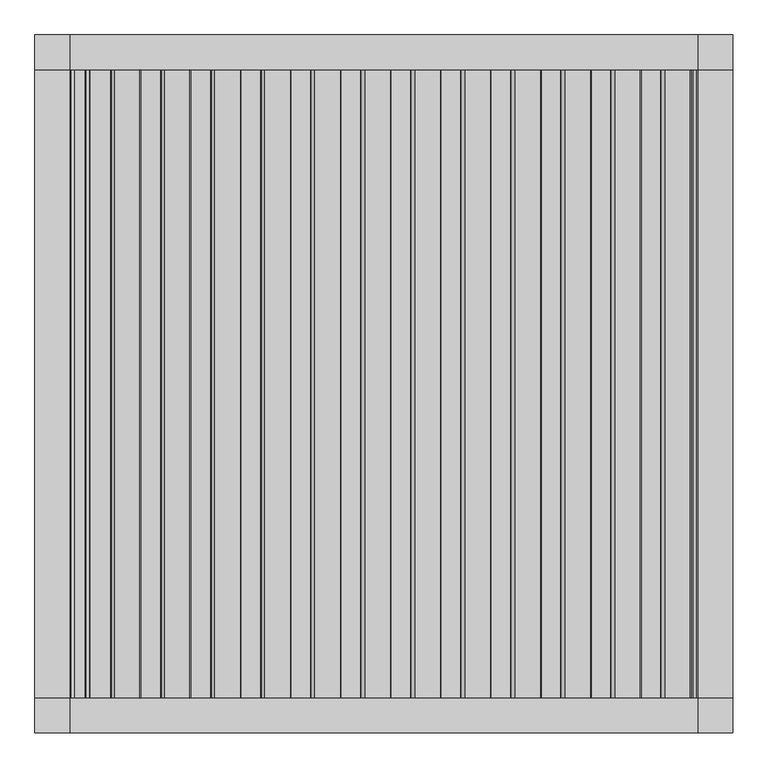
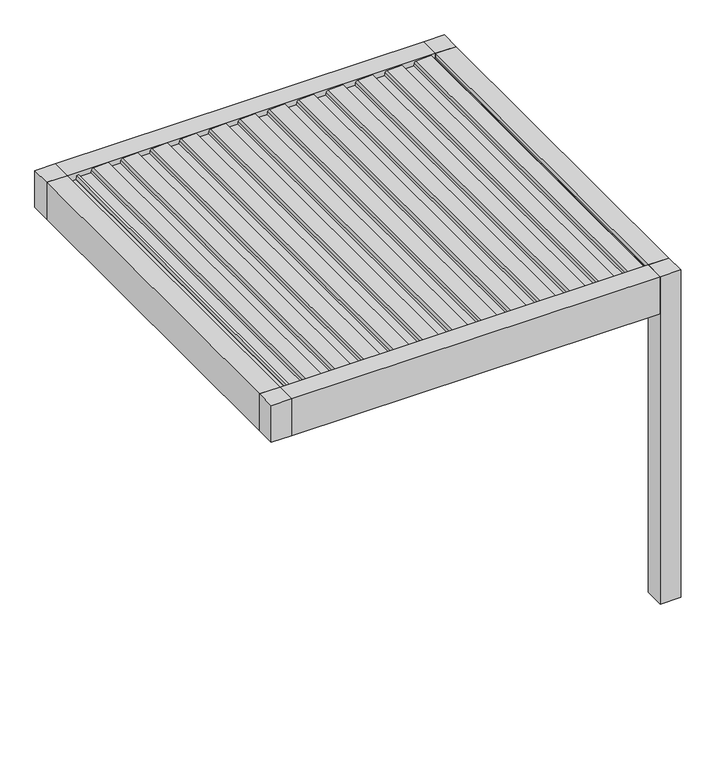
"""IFC4 building model written with IfcOpenShell, lengths in millimetres: proxy geometry, Renson_Amani_Patio_Cover : Renson_Amani_Patio_Cover."""

from ifc_helpers import new_model, si_unit, point, frame, frame_2d, origin, origin_with_axes, place, context, project, spatial, polyline, circle_curve, trimmed, segment, composite_curve, outline, extrude, source, transform, mapped, element, save


def generic_models_f0f07288(model_context):
    return source(origin(), model_context, "Body", "SweptSolid", [
        extrude(outline(composite_curve([segment(polyline([(2483.35, 1073.7289238), (2511.01198, 1076.1490335), (2512.3970364, 1104.984284), (2531.8911096, 1101.5469529), (2526.6075693, 991.549838)]), True, "CONTINUOUS"), segment(trimmed(circle_curve(frame_2d((2511.6248435, 992.26951)), 15.0), [point((2526.6075693, 991.549838))], [point((2514.2295662, 977.4973937))], False, "CARTESIAN"), True, "CONTINUOUS"), segment(polyline([(2514.2295662, 977.4973937), (2495.0, 974.1067023), (2495.0, 886.3709263), (2512.0788237, 883.3594689), (2511.3450182, 868.0824984), (2483.35, 865.6332517), (2483.35, 1073.7289238)]), True, "CONTINUOUS")], self_intersect=False)), frame((0.0, -1350.0, 0.0), z_axis=(0.0, 1.0, 0.0), x_axis=(0.0, 0.0, 1.0)), (0.0, 0.0, 1.0), 2700.0),
        extrude(outline(composite_curve([segment(polyline([(2483.35, 858.7132078), (2511.01198, 861.1333174), (2512.3970364, 889.9685679), (2531.8911096, 886.5312368), (2526.6075693, 776.534122)]), True, "CONTINUOUS"), segment(trimmed(circle_curve(frame_2d((2511.6248435, 777.2537939)), 15.0), [point((2526.6075693, 776.534122))], [point((2514.2295662, 762.4816776))], False, "CARTESIAN"), True, "CONTINUOUS"), segment(polyline([(2514.2295662, 762.4816776), (2495.0, 759.0909863), (2495.0, 671.3552102), (2512.0788237, 668.3437528), (2511.3450182, 653.0667824), (2483.35, 650.6175356), (2483.35, 858.7132078)]), True, "CONTINUOUS")], self_intersect=False)), frame((0.0, -1350.0, 0.0), z_axis=(0.0, 1.0, 0.0), x_axis=(0.0, 0.0, 1.0)), (0.0, 0.0, 1.0), 2700.0),
        extrude(outline(composite_curve([segment(polyline([(2483.35, 643.6974917), (2511.01198, 646.1176014), (2512.3970364, 674.9528519), (2531.8911096, 671.5155208), (2526.6075693, 561.5184059)]), True, "CONTINUOUS"), segment(trimmed(circle_curve(frame_2d((2511.6248435, 562.2380779)), 15.0), [point((2526.6075693, 561.5184059))], [point((2514.2295662, 547.4659616))], False, "CARTESIAN"), True, "CONTINUOUS"), segment(polyline([(2514.2295662, 547.4659616), (2495.0, 544.0752702), (2495.0, 456.3394942), (2512.0788237, 453.3280368), (2511.3450182, 438.0510663), (2483.35, 435.6018196), (2483.35, 643.6974917)]), True, "CONTINUOUS")], self_intersect=False)), frame((0.0, -1350.0, 0.0), z_axis=(0.0, 1.0, 0.0), x_axis=(0.0, 0.0, 1.0)), (0.0, 0.0, 1.0), 2700.0),
        extrude(outline(composite_curve([segment(polyline([(2483.35, 428.6817757), (2511.01198, 431.1018854), (2512.3970364, 459.9371358), (2531.8911096, 456.4998047), (2526.6075693, 346.5026899)]), True, "CONTINUOUS"), segment(trimmed(circle_curve(frame_2d((2511.6248435, 347.2223618)), 15.0), [point((2526.6075693, 346.5026899))], [point((2514.2295662, 332.4502455))], False, "CARTESIAN"), True, "CONTINUOUS"), segment(polyline([(2514.2295662, 332.4502455), (2495.0, 329.0595542), (2495.0, 241.3237782), (2512.0788237, 238.3123207), (2511.3450182, 223.0353503), (2483.35, 220.5861035), (2483.35, 428.6817757)]), True, "CONTINUOUS")], self_intersect=False)), frame((0.0, -1350.0, 0.0), z_axis=(0.0, 1.0, 0.0), x_axis=(0.0, 0.0, 1.0)), (0.0, 0.0, 1.0), 2700.0),
        extrude(outline(composite_curve([segment(polyline([(2483.35, 213.6660597), (2511.01198, 216.0861693), (2512.3970364, 244.9214198), (2531.8911096, 241.4840887), (2526.6075693, 131.4869738)]), True, "CONTINUOUS"), segment(trimmed(circle_curve(frame_2d((2511.6248435, 132.2066458)), 15.0), [point((2526.6075693, 131.4869738))], [point((2514.2295662, 117.4345295))], False, "CARTESIAN"), True, "CONTINUOUS"), segment(polyline([(2514.2295662, 117.4345295), (2495.0, 114.0438381), (2495.0, 26.3080621), (2512.0788237, 23.2966047), (2511.3450182, 8.0196342), (2483.35, 5.5703875), (2483.35, 213.6660597)]), True, "CONTINUOUS")], self_intersect=False)), frame((0.0, -1350.0, 0.0), z_axis=(0.0, 1.0, 0.0), x_axis=(0.0, 0.0, 1.0)), (0.0, 0.0, 1.0), 2700.0),
        extrude(outline(composite_curve([segment(polyline([(2483.35, -1.3496564), (2511.01198, 1.0704533), (2512.3970364, 29.9057037), (2531.8911096, 26.4683726), (2526.6075693, -83.5287422)]), True, "CONTINUOUS"), segment(trimmed(circle_curve(frame_2d((2511.6248435, -82.8090703)), 15.0), [point((2526.6075693, -83.5287422))], [point((2514.2295662, -97.5811866))], False, "CARTESIAN"), True, "CONTINUOUS"), segment(polyline([(2514.2295662, -97.5811866), (2495.0, -100.9718779), (2495.0, -188.7076539), (2512.0788237, -191.7191114), (2511.3450182, -206.9960818), (2483.35, -209.4453286), (2483.35, -1.3496564)]), True, "CONTINUOUS")], self_intersect=False)), frame((0.0, -1350.0, 0.0), z_axis=(0.0, 1.0, 0.0), x_axis=(0.0, 0.0, 1.0)), (0.0, 0.0, 1.0), 2700.0),
        extrude(outline(composite_curve([segment(polyline([(2483.35, -216.3653724), (2511.01198, -213.9452628), (2512.3970364, -185.1100123), (2531.8911096, -188.5473434), (2526.6075693, -298.5444582)]), True, "CONTINUOUS"), segment(trimmed(circle_curve(frame_2d((2511.6248435, -297.8247863)), 15.0), [point((2526.6075693, -298.5444582))], [point((2514.2295662, -312.5969026))], False, "CARTESIAN"), True, "CONTINUOUS"), segment(polyline([(2514.2295662, -312.5969026), (2495.0, -315.987594), (2495.0, -403.72337), (2512.0788237, -406.7348274), (2511.3450182, -422.0117979), (2483.35, -424.4610446), (2483.35, -216.3653724)]), True, "CONTINUOUS")], self_intersect=False)), frame((0.0, -1350.0, 0.0), z_axis=(0.0, 1.0, 0.0), x_axis=(0.0, 0.0, 1.0)), (0.0, 0.0, 1.0), 2700.0),
        extrude(outline(composite_curve([segment(polyline([(2483.35, -431.3810885), (2511.01198, -428.9609788), (2512.3970364, -400.1257284), (2531.8911096, -403.5630594), (2526.6075693, -513.5601743)]), True, "CONTINUOUS"), segment(trimmed(circle_curve(frame_2d((2511.6248435, -512.8405024)), 15.0), [point((2526.6075693, -513.5601743))], [point((2514.2295662, -527.6126187))], False, "CARTESIAN"), True, "CONTINUOUS"), segment(polyline([(2514.2295662, -527.6126187), (2495.0, -531.00331), (2495.0, -618.739086), (2512.0788237, -621.7505434), (2511.3450182, -637.0275139), (2483.35, -639.4767606), (2483.35, -431.3810885)]), True, "CONTINUOUS")], self_intersect=False)), frame((0.0, -1350.0, 0.0), z_axis=(0.0, 1.0, 0.0), x_axis=(0.0, 0.0, 1.0)), (0.0, 0.0, 1.0), 2700.0),
        extrude(outline(composite_curve([segment(polyline([(2483.35, -646.3968045), (2511.01198, -643.9766949), (2512.3970364, -615.1414444), (2531.8911096, -618.5787755), (2526.6075693, -728.5758903)]), True, "CONTINUOUS"), segment(trimmed(circle_curve(frame_2d((2511.6248435, -727.8562184)), 15.0), [point((2526.6075693, -728.5758903))], [point((2514.2295662, -742.6283347))], False, "CARTESIAN"), True, "CONTINUOUS"), segment(polyline([(2514.2295662, -742.6283347), (2495.0, -746.019026), (2495.0, -833.7548021), (2512.0788237, -836.7662595), (2511.3450182, -852.04323), (2483.35, -854.4924767), (2483.35, -646.3968045)]), True, "CONTINUOUS")], self_intersect=False)), frame((0.0, -1350.0, 0.0), z_axis=(0.0, 1.0, 0.0), x_axis=(0.0, 0.0, 1.0)), (0.0, 0.0, 1.0), 2700.0),
        extrude(outline(composite_curve([segment(polyline([(2483.35, -861.4125206), (2511.01198, -858.9924109), (2512.3970364, -830.1571605), (2531.8911096, -833.5944915), (2526.6075693, -943.5916064)]), True, "CONTINUOUS"), segment(trimmed(circle_curve(frame_2d((2511.6248435, -942.8719345)), 15.0), [point((2526.6075693, -943.5916064))], [point((2514.2295662, -957.6440508))], False, "CARTESIAN"), True, "CONTINUOUS"), segment(polyline([(2514.2295662, -957.6440508), (2495.0, -961.0347421), (2495.0, -1048.7705181), (2512.0788237, -1051.7819755), (2511.3450182, -1067.058946), (2483.35, -1069.5081927), (2483.35, -861.4125206)]), True, "CONTINUOUS")], self_intersect=False)), frame((0.0, -1350.0, 0.0), z_axis=(0.0, 1.0, 0.0), x_axis=(0.0, 0.0, 1.0)), (0.0, 0.0, 1.0), 2700.0),
        extrude(outline(composite_curve([segment(polyline([(2483.35, 1288.7446399), (2511.01198, 1291.1647495), (2512.3970364, 1320.0), (2531.8911096, 1316.5626689), (2526.6075693, 1206.5655541)]), True, "CONTINUOUS"), segment(trimmed(circle_curve(frame_2d((2511.6248435, 1207.285226)), 15.0), [point((2526.6075693, 1206.5655541))], [point((2514.2295662, 1192.5131097))], False, "CARTESIAN"), True, "CONTINUOUS"), segment(polyline([(2514.2295662, 1192.5131097), (2495.0, 1189.1224184), (2495.0, 1101.3866423), (2512.0788237, 1098.3751849), (2511.3450182, 1083.0982144), (2483.35, 1080.6489677), (2483.35, 1288.7446399)]), True, "CONTINUOUS")], self_intersect=False)), frame((0.0, -1350.0, 0.0), z_axis=(0.0, 1.0, 0.0), x_axis=(0.0, 0.0, 1.0)), (0.0, 0.0, 1.0), 2700.0),
        extrude(outline(composite_curve([segment(polyline([(2483.35, -1076.4282366), (2511.01198, -1074.008127), (2512.3970364, -1045.1728765), (2531.8911096, -1048.6102076), (2526.6075693, -1158.6073224)]), True, "CONTINUOUS"), segment(trimmed(circle_curve(frame_2d((2511.6248435, -1157.8876505)), 15.0), [point((2526.6075693, -1158.6073224))], [point((2514.2295662, -1172.6597668))], False, "CARTESIAN"), True, "CONTINUOUS"), segment(polyline([(2514.2295662, -1172.6597668), (2495.0, -1176.0504581), (2495.0, -1263.7862342), (2512.0788237, -1266.7976916), (2511.3450182, -1282.0746621), (2483.35, -1284.5239088), (2483.35, -1076.4282366)]), True, "CONTINUOUS")], self_intersect=False)), frame((0.0, -1350.0, 0.0), z_axis=(0.0, 1.0, 0.0), x_axis=(0.0, 0.0, 1.0)), (0.0, 0.0, 1.0), 2700.0),
        extrude(outline(polyline([(1500.0, 1500.0), (1500.0, 1350.0), (1350.0, 1350.0), (1350.0, 1500.0), (1500.0, 1500.0)])), frame((0.0, 0.0, 2250.0), z_axis=(0.0, 0.0, 1.0), x_axis=(1.0, 0.0, 0.0)), (0.0, 0.0, 1.0), 285.0),
        extrude(outline(polyline([(-1350.0, 1500.0), (-1350.0, 1350.0), (-1500.0, 1350.0), (-1500.0, 1500.0), (-1350.0, 1500.0)])), frame((0.0, 0.0, 2250.0), z_axis=(0.0, 0.0, 1.0), x_axis=(1.0, 0.0, 0.0)), (0.0, 0.0, 1.0), 285.0),
        extrude(outline(polyline([(-1350.0, -1500.0), (-1500.0, -1500.0), (-1500.0, -1350.0), (-1350.0, -1350.0), (-1350.0, -1500.0)])), frame((0.0, 0.0, 2250.0), z_axis=(0.0, 0.0, 1.0), x_axis=(1.0, 0.0, 0.0)), (0.0, 0.0, 1.0), 285.0),
        extrude(outline(polyline([(1500.0, -1350.0), (1500.0, -1500.0), (1350.0, -1500.0), (1350.0, -1350.0), (1500.0, -1350.0)])), origin_with_axes(), (0.0, 0.0, 1.0), 2535.0),
        extrude(outline(polyline([(2466.6559373, -1350.0), (2466.6559373, -1290.0), (2480.6555802, -1286.2487113), (2480.6555802, -1329.5940945), (2496.400763, -1345.0), (2504.2449277, -1345.0), (2504.6823598, -1350.0), (2466.6559373, -1350.0)])), frame((0.0, -1350.0, 0.0), z_axis=(0.0, 1.0, 0.0), x_axis=(0.0, 0.0, 1.0)), (0.0, 0.0, 1.0), 2700.0),
        extrude(outline(polyline([(-1350.0, -1350.0), (-1500.0, -1350.0), (-1500.0, 1350.0), (-1350.0, 1350.0), (-1350.0, -1350.0)])), frame((0.0, 0.0, 2250.0), z_axis=(0.0, 0.0, 1.0), x_axis=(1.0, 0.0, 0.0)), (0.0, 0.0, 1.0), 285.0),
        extrude(outline(polyline([(2535.0, 1500.0), (2535.0, 1350.0), (2504.6904658, 1350.0), (2504.2449277, 1345.0), (2496.400763, 1345.0), (2480.6555802, 1329.2544156), (2480.6555802, 1319.9090324), (2466.6559373, 1323.6603211), (2466.6559373, 1350.0), (2250.0, 1350.0), (2250.0, 1500.0), (2535.0, 1500.0)])), frame((0.0, -1350.0, 0.0), z_axis=(0.0, 1.0, 0.0), x_axis=(0.0, 0.0, 1.0)), (0.0, 0.0, 1.0), 2700.0),
        extrude(outline(polyline([(-1350.0, 2535.0), (-1350.0, 2322.0), (-1280.0000001, 2322.0), (-1280.0000001, 2250.0), (-1500.0, 2250.0), (-1500.0, 2535.0), (-1350.0, 2535.0)])), frame((-1350.0, 0.0, 0.0), z_axis=(1.0, 0.0, 0.0), x_axis=(0.0, 1.0, 0.0)), (0.0, 0.0, 1.0), 2700.0),
        extrude(outline(polyline([(1500.0, 2250.0), (1280.0000001, 2250.0), (1280.0000001, 2322.0), (1350.0, 2322.0), (1350.0, 2535.0), (1500.0, 2535.0), (1500.0, 2250.0)])), frame((-1350.0, 0.0, 0.0), z_axis=(1.0, 0.0, 0.0), x_axis=(0.0, 1.0, 0.0)), (0.0, 0.0, 1.0), 2700.0),
    ])


if __name__ == "__main__":
    model = new_model("IFC4")
    model_context = context("Model", 3, world=origin())
    ifc_project = project(units=[si_unit("LENGTHUNIT", "METRE", prefix="MILLI")], contexts=[model_context])
    site = spatial("IfcSite", under=ifc_project)
    building = spatial("IfcBuilding", under=site)
    placement = place(None, origin())
    generic_models_shape = generic_models_f0f07288(model_context)
    element("IfcBuildingElementProxy", 1, Name="Renson_Amani_Patio_Cover : Renson_Amani_Patio_Cover", ObjectType="Renson_Amani_Patio_Cover : Renson_Amani_Patio_Cover", at=placement, inside=building, context=model_context, shape_type="MappedRepresentation", body=[
        mapped(generic_models_shape, transform((0.0, 0.0, 0.0), x_axis=(1.0, 0.0, 0.0), y_axis=(0.0, 1.0, 0.0), z_axis=(0.0, 0.0, 1.0))),
    ])
    save(model, "model.ifc")
